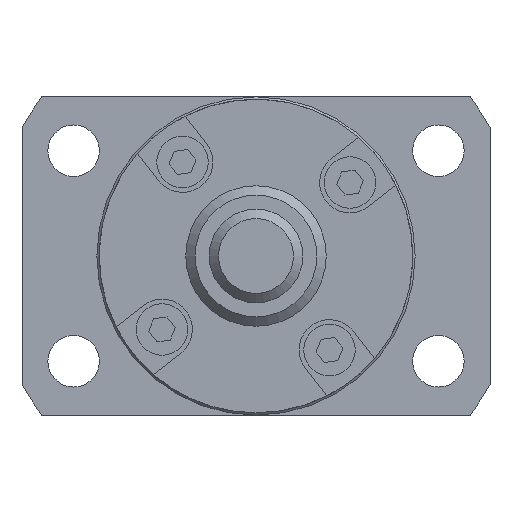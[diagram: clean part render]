
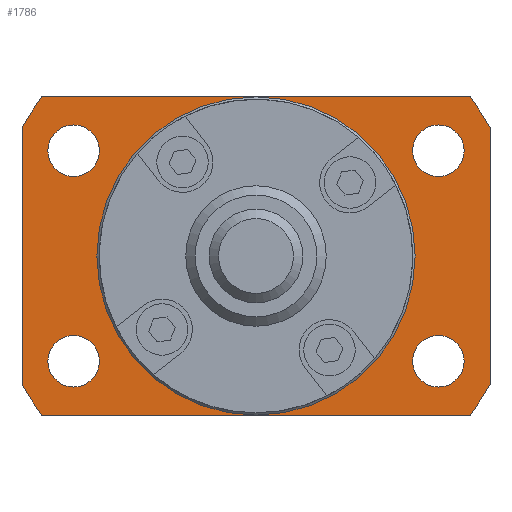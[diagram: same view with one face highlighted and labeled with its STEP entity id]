
A CAD part, left-side view. The second image highlights one B-rep face of the part: STEP entity #1786.
In plain terms, the highlighted planar face has unit normal (-1, 0, 0).
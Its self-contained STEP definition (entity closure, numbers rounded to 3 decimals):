
#110=CIRCLE('',#1969,2.75);
#111=CIRCLE('',#1970,2.75);
#112=CIRCLE('',#1971,2.75);
#113=CIRCLE('',#1972,2.75);
#114=CIRCLE('',#1973,16.75);
#115=CIRCLE('',#1974,28.5);
#116=CIRCLE('',#1975,28.5);
#117=CIRCLE('',#1976,28.5);
#118=CIRCLE('',#1977,28.5);
#280=ORIENTED_EDGE('',*,*,#696,.T.);
#281=ORIENTED_EDGE('',*,*,#697,.T.);
#282=ORIENTED_EDGE('',*,*,#698,.T.);
#283=ORIENTED_EDGE('',*,*,#699,.T.);
#284=ORIENTED_EDGE('',*,*,#700,.T.);
#285=ORIENTED_EDGE('',*,*,#701,.F.);
#286=ORIENTED_EDGE('',*,*,#702,.F.);
#287=ORIENTED_EDGE('',*,*,#703,.F.);
#288=ORIENTED_EDGE('',*,*,#704,.F.);
#289=ORIENTED_EDGE('',*,*,#705,.F.);
#290=ORIENTED_EDGE('',*,*,#706,.F.);
#291=ORIENTED_EDGE('',*,*,#707,.F.);
#292=ORIENTED_EDGE('',*,*,#708,.F.);
#696=EDGE_CURVE('',#916,#916,#110,.T.);
#697=EDGE_CURVE('',#917,#917,#111,.T.);
#698=EDGE_CURVE('',#918,#918,#112,.T.);
#699=EDGE_CURVE('',#919,#919,#113,.T.);
#700=EDGE_CURVE('',#920,#920,#114,.T.);
#701=EDGE_CURVE('',#921,#922,#115,.T.);
#702=EDGE_CURVE('',#923,#921,#1059,.T.);
#703=EDGE_CURVE('',#924,#923,#116,.T.);
#704=EDGE_CURVE('',#925,#924,#1060,.T.);
#705=EDGE_CURVE('',#926,#925,#117,.T.);
#706=EDGE_CURVE('',#927,#926,#1061,.T.);
#707=EDGE_CURVE('',#928,#927,#118,.T.);
#708=EDGE_CURVE('',#922,#928,#1062,.T.);
#916=VERTEX_POINT('',#2865);
#917=VERTEX_POINT('',#2867);
#918=VERTEX_POINT('',#2869);
#919=VERTEX_POINT('',#2871);
#920=VERTEX_POINT('',#2873);
#921=VERTEX_POINT('',#2875);
#922=VERTEX_POINT('',#2876);
#923=VERTEX_POINT('',#2878);
#924=VERTEX_POINT('',#2880);
#925=VERTEX_POINT('',#2882);
#926=VERTEX_POINT('',#2884);
#927=VERTEX_POINT('',#2886);
#928=VERTEX_POINT('',#2888);
#1059=LINE('',#2877,#1193);
#1060=LINE('',#2881,#1194);
#1061=LINE('',#2885,#1195);
#1062=LINE('',#2889,#1196);
#1193=VECTOR('',#2306,1000.);
#1194=VECTOR('',#2309,1000.);
#1195=VECTOR('',#2312,1000.);
#1196=VECTOR('',#2315,1000.);
#1352=EDGE_LOOP('',(#280));
#1353=EDGE_LOOP('',(#281));
#1354=EDGE_LOOP('',(#282));
#1355=EDGE_LOOP('',(#283));
#1356=EDGE_LOOP('',(#284));
#1357=EDGE_LOOP('',(#285,#286,#287,#288,#289,#290,#291,#292));
#1544=FACE_BOUND('',#1352,.T.);
#1545=FACE_BOUND('',#1353,.T.);
#1546=FACE_BOUND('',#1354,.T.);
#1547=FACE_BOUND('',#1355,.T.);
#1548=FACE_BOUND('',#1356,.T.);
#1549=FACE_BOUND('',#1357,.T.);
#1695=PLANE('',#1968);
#1786=ADVANCED_FACE('',(#1544,#1545,#1546,#1547,#1548,#1549),#1695,.F.);
#1968=AXIS2_PLACEMENT_3D('',#2863,#2292,#2293);
#1969=AXIS2_PLACEMENT_3D('',#2864,#2294,#2295);
#1970=AXIS2_PLACEMENT_3D('',#2866,#2296,#2297);
#1971=AXIS2_PLACEMENT_3D('',#2868,#2298,#2299);
#1972=AXIS2_PLACEMENT_3D('',#2870,#2300,#2301);
#1973=AXIS2_PLACEMENT_3D('',#2872,#2302,#2303);
#1974=AXIS2_PLACEMENT_3D('',#2874,#2304,#2305);
#1975=AXIS2_PLACEMENT_3D('',#2879,#2307,#2308);
#1976=AXIS2_PLACEMENT_3D('',#2883,#2310,#2311);
#1977=AXIS2_PLACEMENT_3D('',#2887,#2313,#2314);
#2292=DIRECTION('',(1.,0.,0.));
#2293=DIRECTION('',(0.,0.,-1.));
#2294=DIRECTION('',(1.,0.,0.));
#2295=DIRECTION('',(0.,0.,-1.));
#2296=DIRECTION('',(1.,0.,0.));
#2297=DIRECTION('',(0.,0.,-1.));
#2298=DIRECTION('',(1.,0.,0.));
#2299=DIRECTION('',(0.,0.,-1.));
#2300=DIRECTION('',(1.,0.,0.));
#2301=DIRECTION('',(0.,0.,-1.));
#2302=DIRECTION('',(1.,0.,0.));
#2303=DIRECTION('',(0.,0.,-1.));
#2304=DIRECTION('',(1.,0.,0.));
#2305=DIRECTION('',(0.,0.,-1.));
#2306=DIRECTION('',(0.,-1.,0.));
#2307=DIRECTION('',(1.,0.,0.));
#2308=DIRECTION('',(0.,0.,-1.));
#2309=DIRECTION('',(0.,0.,1.));
#2310=DIRECTION('',(1.,0.,0.));
#2311=DIRECTION('',(0.,0.,-1.));
#2312=DIRECTION('',(0.,1.,0.));
#2313=DIRECTION('',(1.,0.,0.));
#2314=DIRECTION('',(0.,0.,-1.));
#2315=DIRECTION('',(0.,0.,-1.));
#2863=CARTESIAN_POINT('',(28.5,16.75,0.));
#2864=CARTESIAN_POINT('',(28.5,19.486,-11.25));
#2865=CARTESIAN_POINT('',(28.5,19.486,-14.));
#2866=CARTESIAN_POINT('',(28.5,-19.486,11.25));
#2867=CARTESIAN_POINT('',(28.5,-19.486,8.5));
#2868=CARTESIAN_POINT('',(28.5,-19.486,-11.25));
#2869=CARTESIAN_POINT('',(28.5,-19.486,-14.));
#2870=CARTESIAN_POINT('',(28.5,19.486,11.25));
#2871=CARTESIAN_POINT('',(28.5,19.486,8.5));
#2872=CARTESIAN_POINT('',(28.5,0.,0.));
#2873=CARTESIAN_POINT('',(28.5,0.,-16.75));
#2874=CARTESIAN_POINT('',(28.5,0.,0.));
#2875=CARTESIAN_POINT('',(28.5,-22.875,17.));
#2876=CARTESIAN_POINT('',(28.5,-25.,13.684));
#2877=CARTESIAN_POINT('',(28.5,22.875,17.));
#2878=CARTESIAN_POINT('',(28.5,22.875,17.));
#2879=CARTESIAN_POINT('',(28.5,0.,0.));
#2880=CARTESIAN_POINT('',(28.5,25.,13.684));
#2881=CARTESIAN_POINT('',(28.5,25.,-13.684));
#2882=CARTESIAN_POINT('',(28.5,25.,-13.684));
#2883=CARTESIAN_POINT('',(28.5,0.,0.));
#2884=CARTESIAN_POINT('',(28.5,22.875,-17.));
#2885=CARTESIAN_POINT('',(28.5,-22.875,-17.));
#2886=CARTESIAN_POINT('',(28.5,-22.875,-17.));
#2887=CARTESIAN_POINT('',(28.5,0.,0.));
#2888=CARTESIAN_POINT('',(28.5,-25.,-13.684));
#2889=CARTESIAN_POINT('',(28.5,-25.,13.684));
